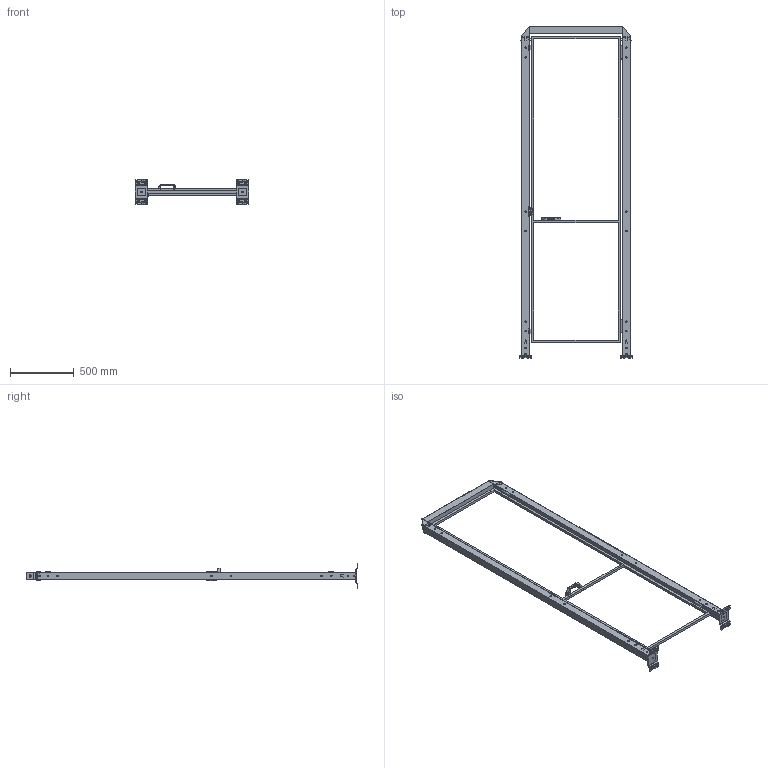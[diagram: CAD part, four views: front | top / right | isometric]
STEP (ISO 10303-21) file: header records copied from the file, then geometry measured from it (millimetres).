
FILE_DESCRIPTION(('STEP AP242'),'1');
FILE_NAME('vfda_bscndr2_07002520.stp','2025-01-23T13:49:02',('TraceParts'),('TraceParts S.A.'),'Spatial InterOp 3D',' ',' ');
FILE_SCHEMA(('AP242_MANAGED_MODEL_BASED_3D_ENGINEERING_MIM_LF {1 0 10303 442 1 1 4}'));
Length unit declared in the file: millimetre
Products named in the file (1): vfda_bscndr2_07002520_1
Bounding box: 890 x 2601 x 192 mm (x, y, z)
Volume: 5164632.7 mm3; surface area: 3476036.2 mm2
Topology: 12 solids, 12 shells, 1874 faces, 5016 edges, 3212 vertices
Faces by surface type: plane 906, cylinder 628, bspline 236, cone 60, torus 40, sphere 4
Entity records: 75648 total; most frequent: CARTESIAN_POINT 13827, ORIENTED_EDGE 10024, DIRECTION 9202, EDGE_CURVE 5012, VERTEX_POINT 3212, LINE 3072, VECTOR 3072, AXIS2_PLACEMENT_3D 3065
